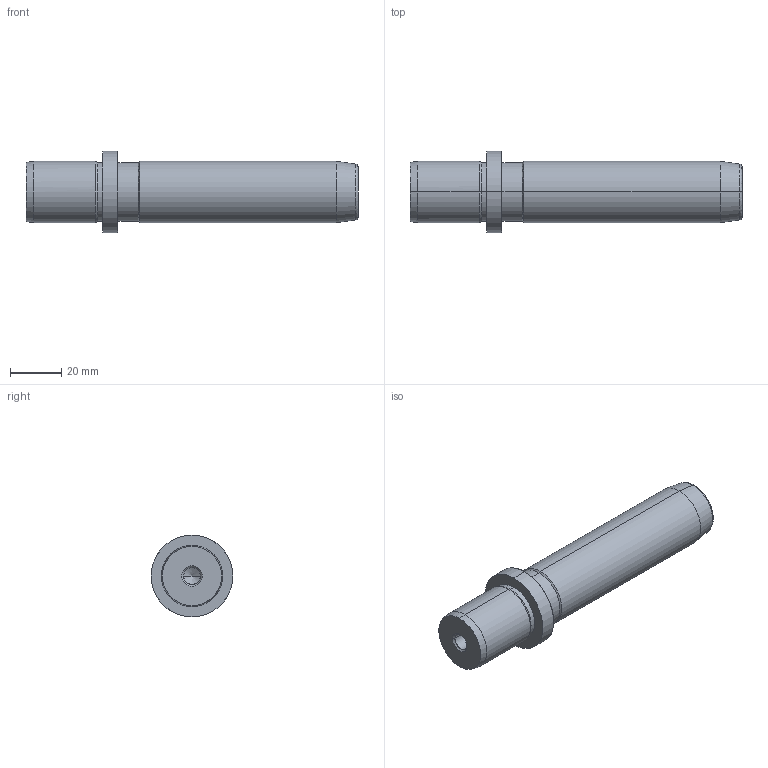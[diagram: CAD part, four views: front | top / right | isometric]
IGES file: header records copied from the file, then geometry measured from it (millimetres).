
Start section: START RECORD GO HERE.
Global section: file name: 718-24x100.igs; native system: DASSAULT SYSTEMES CATIA V5 R20 - www.3ds.com; preprocessor: CATIA Version 5 Release 20 ; author: Utente; organization: NB04-ASUS; date: 20210102.162159; units: millimetre
Bounding box: 130 x 32 x 32 mm (x, y, z)
Surface area: 12458.5 mm2 (no closed solid volume)
Topology: 0 solids, 0 shells, 36 faces, 196 edges, 192 vertices
Faces by surface type: revolution 32, plane 4
